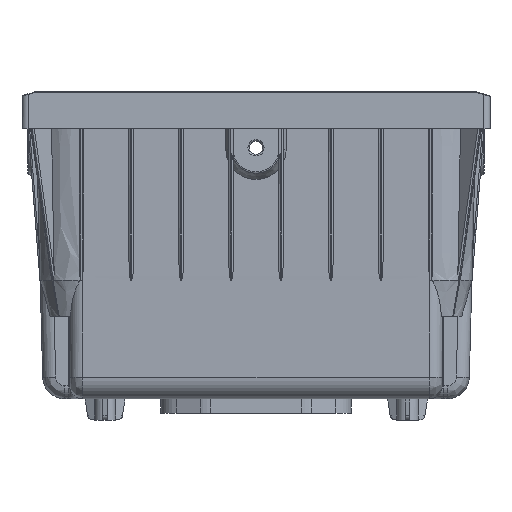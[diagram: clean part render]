
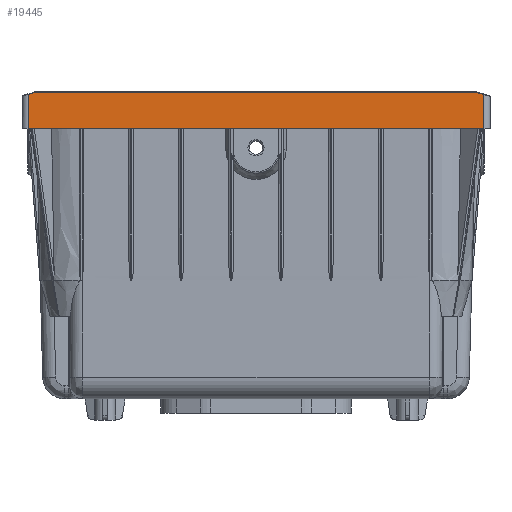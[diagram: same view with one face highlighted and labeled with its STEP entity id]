
A CAD part, front view. The second image highlights one B-rep face of the part: STEP entity #19445.
In plain terms, the highlighted planar face has unit normal (0, -1, 0).
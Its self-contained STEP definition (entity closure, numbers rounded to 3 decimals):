
#2762=DIRECTION('',(1.,0.,0.));
#2763=VECTOR('',#2762,145.955);
#2764=CARTESIAN_POINT('',(-73.,-122.46,
98.));
#2765=LINE('',#2764,#2763);
#2766=DIRECTION('',(0.96,0.,-0.278));
#2767=VECTOR('',#2766,2.496);
#2768=CARTESIAN_POINT('',(72.955,-122.46,98.));
#2769=LINE('',#2768,#2767);
#2770=DIRECTION('',(-1.,0.,0.));
#2771=VECTOR('',#2770,150.703);
#2772=CARTESIAN_POINT('',(75.352,-122.46,86.));
#2773=LINE('',#2772,#2771);
#2774=DIRECTION('',(0.96,0.,0.278));
#2775=VECTOR('',#2774,2.347);
#2776=CARTESIAN_POINT('',(-75.352,-122.46,
97.333));
#2777=LINE('',#2776,#2775);
#2778=CARTESIAN_POINT('',(-73.,-122.46,
98.));
#2779=CARTESIAN_POINT('',(-73.011,-122.46,
98.001));
#2780=CARTESIAN_POINT('',(-73.033,-122.46,
98.));
#2781=CARTESIAN_POINT('',(-73.065,-122.46,
97.995));
#2782=CARTESIAN_POINT('',(-73.087,-122.46,
97.99));
#2783=CARTESIAN_POINT('',(-73.098,-122.46,
97.986));
#2795=CARTESIAN_POINT('',(-73.,-122.46,
98.));
#3137=DIRECTION('',(0.,0.,-1.));
#3138=VECTOR('',#3137,11.333);
#3139=CARTESIAN_POINT('',(-75.352,-122.46,
97.333));
#3140=LINE('',#3139,#3138);
#3293=DIRECTION('',(0.,0.,1.));
#3294=VECTOR('',#3293,11.306);
#3295=CARTESIAN_POINT('',(75.352,-122.46,86.));
#3296=LINE('',#3295,#3294);
#3301=CARTESIAN_POINT('',(72.955,-122.46,98.));
#14105=VERTEX_POINT('',#2795);
#14106=VERTEX_POINT('',#3301);
#14107=VERTEX_POINT('',#2783);
#14110=CARTESIAN_POINT('',(75.352,-122.46,
97.306));
#14111=VERTEX_POINT('',#14110);
#14112=CARTESIAN_POINT('',(75.352,-122.46,86.));
#14113=VERTEX_POINT('',#14112);
#14114=CARTESIAN_POINT('',(-75.352,-122.46,86.));
#14115=VERTEX_POINT('',#14114);
#14116=CARTESIAN_POINT('',(-75.352,-122.46,
97.333));
#14117=VERTEX_POINT('',#14116);
#19425=CARTESIAN_POINT('',(-75.352,-122.46,91.));
#19426=DIRECTION('',(0.,-1.,0.));
#19427=DIRECTION('',(1.,0.,0.));
#19428=AXIS2_PLACEMENT_3D('',#19425,#19426,#19427);
#19429=PLANE('',#19428);
#19431=ORIENTED_EDGE('',*,*,#19430,.F.);
#19433=ORIENTED_EDGE('',*,*,#19432,.T.);
#19435=ORIENTED_EDGE('',*,*,#19434,.T.);
#19437=ORIENTED_EDGE('',*,*,#19436,.F.);
#19438=ORIENTED_EDGE('',*,*,#18956,.T.);
#19440=ORIENTED_EDGE('',*,*,#19439,.F.);
#19442=ORIENTED_EDGE('',*,*,#19441,.T.);
#19443=EDGE_LOOP('',(#19431,#19433,#19435,#19437,#19438,#19440,#19442));
#19444=FACE_OUTER_BOUND('',#19443,.F.);
#19445=ADVANCED_FACE('',(#19444),#19429,.T.);
#2784=B_SPLINE_CURVE_WITH_KNOTS('',3,(#2778,#2779,#2780,#2781,#2782,#2783),
.UNSPECIFIED.,.F.,.F.,(4,1,1,4),(0.,0.333,0.667,1.),
.UNSPECIFIED.);
#18956=EDGE_CURVE('',#14113,#14115,#2773,.T.);
#19430=EDGE_CURVE('',#14105,#14107,#2784,.T.);
#19432=EDGE_CURVE('',#14105,#14106,#2765,.T.);
#19434=EDGE_CURVE('',#14106,#14111,#2769,.T.);
#19436=EDGE_CURVE('',#14113,#14111,#3296,.T.);
#19439=EDGE_CURVE('',#14117,#14115,#3140,.T.);
#19441=EDGE_CURVE('',#14117,#14107,#2777,.T.);
